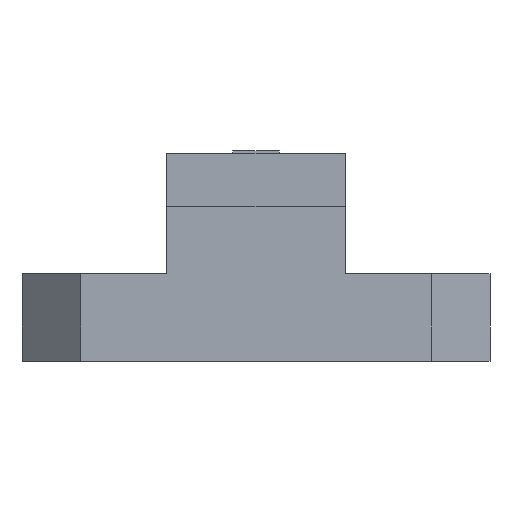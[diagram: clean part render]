
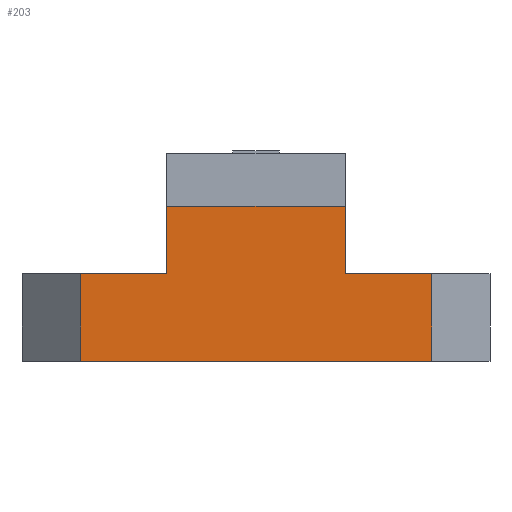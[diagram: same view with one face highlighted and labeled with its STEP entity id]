
A CAD part, front view. The second image highlights one B-rep face of the part: STEP entity #203.
In plain terms, the highlighted planar face has unit normal (0, -1, 0).
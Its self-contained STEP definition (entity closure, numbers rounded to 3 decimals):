
#203=ADVANCED_FACE('',(#450),#452,.T.);
#450=FACE_BOUND('',#451,.T.);
#451=EDGE_LOOP('',(#823,#824,#825,#826,#827,#828,#829,#830));
#452=PLANE('',#453);
#453=AXIS2_PLACEMENT_3D('',#454,#455,#456);
#454=CARTESIAN_POINT('',(-6.,-4.05,0.));
#455=DIRECTION('',(0.,-1.,0.));
#456=DIRECTION('',(1.,0.,0.));
#823=ORIENTED_EDGE('',*,*,#1089,.F.);
#824=ORIENTED_EDGE('',*,*,#1047,.F.);
#825=ORIENTED_EDGE('',*,*,#1083,.F.);
#826=ORIENTED_EDGE('',*,*,#1090,.F.);
#827=ORIENTED_EDGE('',*,*,#1070,.T.);
#828=ORIENTED_EDGE('',*,*,#1091,.T.);
#829=ORIENTED_EDGE('',*,*,#1055,.F.);
#830=ORIENTED_EDGE('',*,*,#1054,.T.);
#1047=EDGE_CURVE('',#1250,#1252,#1253,.T.);
#1054=EDGE_CURVE('',#1260,#1262,#1264,.T.);
#1055=EDGE_CURVE('',#1260,#1265,#1266,.T.);
#1070=EDGE_CURVE('',#1284,#1291,#1293,.T.);
#1083=EDGE_CURVE('',#1315,#1250,#1317,.T.);
#1089=EDGE_CURVE('',#1252,#1262,#1327,.F.);
#1090=EDGE_CURVE('',#1284,#1315,#1328,.T.);
#1091=EDGE_CURVE('',#1291,#1265,#1329,.T.);
#1250=VERTEX_POINT('',#1489);
#1252=VERTEX_POINT('',#1493);
#1253=LINE('',#1494,#1495);
#1260=VERTEX_POINT('',#1511);
#1262=VERTEX_POINT('',#1515);
#1264=LINE('',#1519,#1520);
#1265=VERTEX_POINT('',#1522);
#1266=LINE('',#1523,#1524);
#1284=VERTEX_POINT('',#1563);
#1291=VERTEX_POINT('',#1578);
#1293=LINE('',#1582,#1583);
#1315=VERTEX_POINT('',#1632);
#1317=LINE('',#1636,#1637);
#1327=LINE('',#1660,#1661);
#1328=LINE('',#1663,#1664);
#1329=LINE('',#1666,#1667);
#1489=CARTESIAN_POINT('',(-3.05,-4.05,3.));
#1493=CARTESIAN_POINT('',(-3.05,-4.05,5.3));
#1494=CARTESIAN_POINT('',(-3.05,-4.05,3.));
#1495=VECTOR('',#1496,1.);
#1496=DIRECTION('',(0.,0.,1.));
#1511=CARTESIAN_POINT('',(3.05,-4.05,3.));
#1515=CARTESIAN_POINT('',(3.05,-4.05,5.3));
#1519=CARTESIAN_POINT('',(3.05,-4.05,3.));
#1520=VECTOR('',#1521,1.);
#1521=DIRECTION('',(0.,0.,1.));
#1522=CARTESIAN_POINT('',(6.,-4.05,3.));
#1523=CARTESIAN_POINT('',(3.05,-4.05,3.));
#1524=VECTOR('',#1525,1.);
#1525=DIRECTION('',(1.,0.,0.));
#1563=CARTESIAN_POINT('',(-6.,-4.05,0.));
#1578=CARTESIAN_POINT('',(6.,-4.05,0.));
#1582=CARTESIAN_POINT('',(-6.,-4.05,0.));
#1583=VECTOR('',#1584,1.);
#1584=DIRECTION('',(1.,0.,0.));
#1632=CARTESIAN_POINT('',(-6.,-4.05,3.));
#1636=CARTESIAN_POINT('',(-6.,-4.05,3.));
#1637=VECTOR('',#1638,1.);
#1638=DIRECTION('',(1.,0.,0.));
#1660=CARTESIAN_POINT('',(3.05,-4.05,5.3));
#1661=VECTOR('',#1662,1.);
#1662=DIRECTION('',(-1.,0.,0.));
#1663=CARTESIAN_POINT('',(-6.,-4.05,0.));
#1664=VECTOR('',#1665,1.);
#1665=DIRECTION('',(0.,0.,1.));
#1666=CARTESIAN_POINT('',(6.,-4.05,0.));
#1667=VECTOR('',#1668,1.);
#1668=DIRECTION('',(0.,0.,1.));
